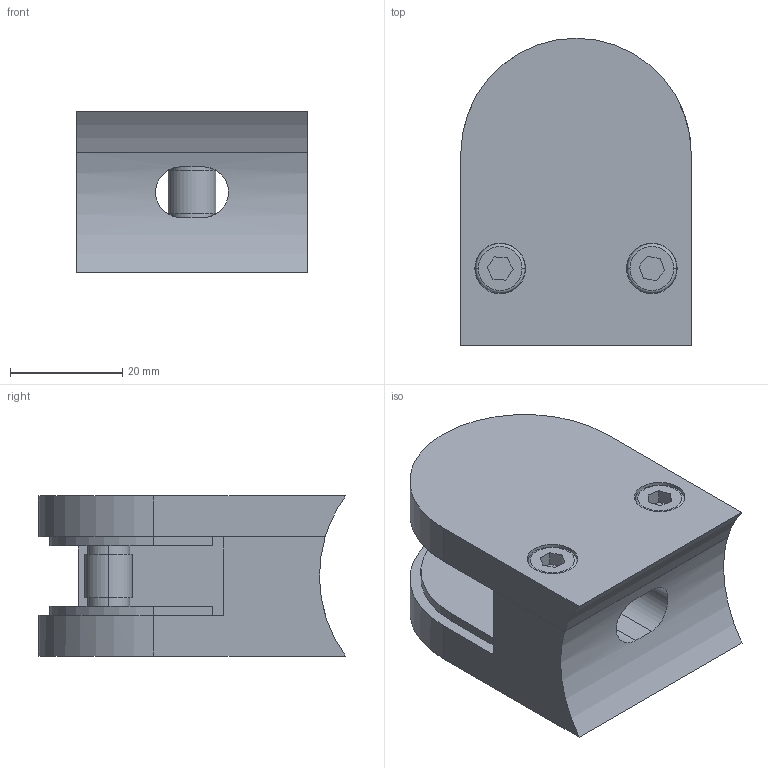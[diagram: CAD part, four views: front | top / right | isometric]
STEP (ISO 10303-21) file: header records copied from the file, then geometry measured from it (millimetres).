
FILE_DESCRIPTION (( 'STEP AP203' ), '1' );
FILE_NAME ('3D_GG4002_48.3x10.76_188758130.STEP', '2024-11-01T11:18:14', ( '' ), ( '' ), 'SwSTEP 2.0', 'SolidWorks 2023', '' );
FILE_SCHEMA (( 'CONFIG_CONTROL_DESIGN' ));
Length unit declared in the file: millimetre
Products named in the file (1): 3D_GG4002_48.3x10.76_188758130
Bounding box: 41 x 54.65 x 28.5 mm (x, y, z)
Volume: 41382.6 mm3; surface area: 20110.7 mm2
Topology: 7 solids, 7 shells, 117 faces, 259 edges, 170 vertices
Faces by surface type: plane 61, cylinder 48, torus 4, cone 4
Entity records: 3403 total; most frequent: CARTESIAN_POINT 613, DIRECTION 600, ORIENTED_EDGE 518, EDGE_CURVE 259, AXIS2_PLACEMENT_3D 225, VERTEX_POINT 170, LINE 150, VECTOR 150
